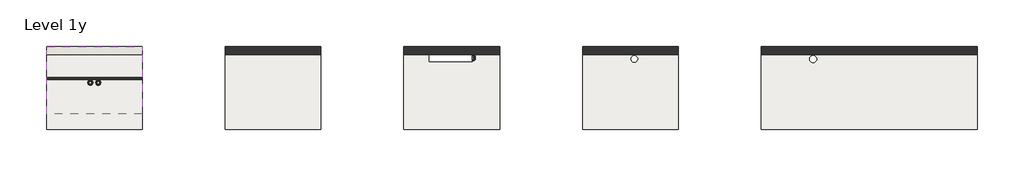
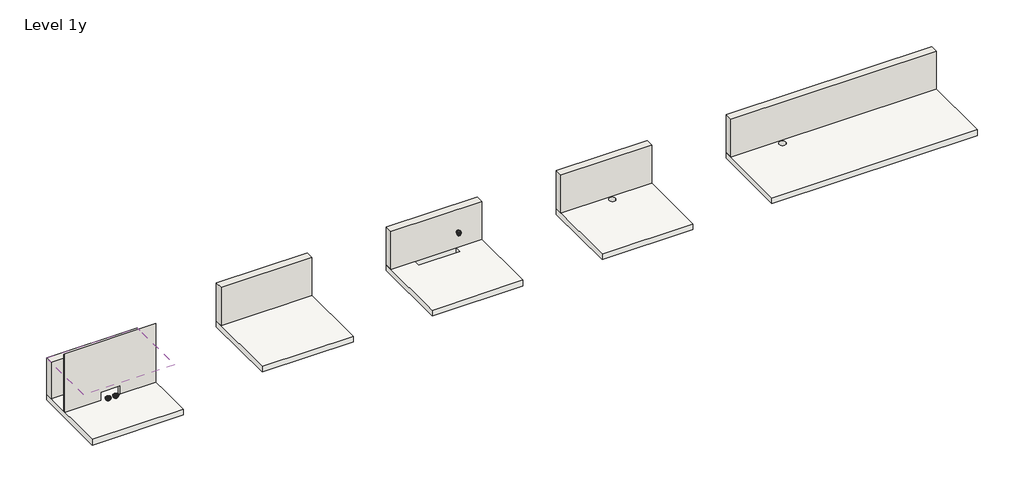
# One storey, incomplete: 6 walls, 5 slabs, 3 duct fittings, 2 duct segments, 1 roof.
"""IFC4 building model written with IfcOpenShell, lengths in millimetres."""

from ifc_helpers import new_model, si_unit, point, frame, frame_2d, origin, place, context, project, spatial, polyline, circle_curve, ellipse_curve, trimmed, segment, composite_curve, outline, extrude, faceted_brep, transform, mapped, element, save
from ifc_brep_helpers import plane_surface, revolved_surface, advanced_brep
from components import duct_fitting_80_125_7c03a684

model = new_model("IFC4")

# Units and contexts
model_context = context("Model", 3, world=origin())
ifc_project = project(units=[si_unit("LENGTHUNIT", "METRE", prefix="MILLI")], contexts=[model_context])

# Site, building, storey
site = spatial("IfcSite", under=ifc_project)
building = spatial("IfcBuilding", under=site)
storey = spatial("IfcBuildingStorey", under=building, Name="Level 1y", Elevation=2313.9019715)

# Duct fittings
placement = place(None, origin())
duct_fitting_80_125_shape = duct_fitting_80_125_7c03a684(model_context)
element("IfcDuctFitting", 1, ObjectType="Renson_Healthbox 3_Reducer_Round_Adapter 80-125 : 80-125", at=placement, inside=storey, context=model_context, shape_type="MappedRepresentation", body=[
    mapped(duct_fitting_80_125_shape, transform((-5939.50021, 3317.2435118, 3261.3063466), x_axis=(1.0, 0.0, 0.0), y_axis=(0.0, 0.0, 1.0), z_axis=(0.0, -1.0, 0.0))),
])
element("IfcDuctFitting", 2, ObjectType="Renson_Healthbox 3_Reducer_Round_Adapter 80-125 : 80-125", at=placement, inside=storey, context=model_context, shape_type="MappedRepresentation", body=[
    mapped(duct_fitting_80_125_shape, transform((-14939.8881115, 2717.2435118, 2449.9019715), x_axis=(0.0, 0.0, -1.0), y_axis=(0.0, 1.0, 0.0), z_axis=(1.0, 0.0, 0.0))),
])
element("IfcDuctFitting", 3, ObjectType="Renson_Healthbox 3_Reducer_Round_Adapter 80-125 : 80-125", at=placement, inside=storey, context=model_context, shape_type="MappedRepresentation", body=[
    mapped(duct_fitting_80_125_shape, transform((-15129.8881115, 2717.2435118, 2449.9019715), x_axis=(0.0, 0.0, -1.0), y_axis=(0.0, 1.0, 0.0), z_axis=(1.0, 0.0, 0.0))),
])

# Duct segments
element("IfcDuctSegment", 4, ObjectType="Taps", at=placement, inside=storey, context=model_context, shape_type="SweptSolid", body=[
    extrude(outline(composite_curve([segment(trimmed(circle_curve(frame_2d((2595.9019715, -10880.5454561)), 62.5), [point((2595.9019715, -10943.0454561))], [point((2533.4019715, -10880.5454561))], False, "CARTESIAN"), True, "CONTINUOUS"), segment(trimmed(circle_curve(frame_2d((2595.9019715, -10880.5454561)), 62.5), [point((2533.4019715, -10880.5454561))], [point((2595.9019715, -10818.0454561))], False, "CARTESIAN"), True, "CONTINUOUS"), segment(trimmed(circle_curve(frame_2d((2595.9019715, -10880.5454561)), 62.5), [point((2595.9019715, -10818.0454561))], [point((2658.4019715, -10880.5454561))], False, "CARTESIAN"), True, "CONTINUOUS"), segment(trimmed(circle_curve(frame_2d((2595.9019715, -10880.5454561)), 62.5), [point((2658.4019715, -10880.5454561))], [point((2595.9019715, -10943.0454561))], False, "CARTESIAN"), True, "CONTINUOUS")], self_intersect=False)), frame((0.0, 1922.8055358, 0.0), z_axis=(0.0, 1.0, 0.0), x_axis=(0.0, 0.0, 1.0)), (0.0, 0.0, 1.0), 520.0),
])
element("IfcDuctSegment", 5, ObjectType="Taps", at=placement, inside=storey, context=model_context, shape_type="SweptSolid", body=[
    extrude(outline(composite_curve([segment(trimmed(circle_curve(frame_2d((2595.9019715, -10690.5454561)), 62.5), [point((2595.9019715, -10753.0454561))], [point((2533.4019715, -10690.5454561))], False, "CARTESIAN"), True, "CONTINUOUS"), segment(trimmed(circle_curve(frame_2d((2595.9019715, -10690.5454561)), 62.5), [point((2533.4019715, -10690.5454561))], [point((2595.9019715, -10628.0454561))], False, "CARTESIAN"), True, "CONTINUOUS"), segment(trimmed(circle_curve(frame_2d((2595.9019715, -10690.5454561)), 62.5), [point((2595.9019715, -10628.0454561))], [point((2658.4019715, -10690.5454561))], False, "CARTESIAN"), True, "CONTINUOUS"), segment(trimmed(circle_curve(frame_2d((2595.9019715, -10690.5454561)), 62.5), [point((2658.4019715, -10690.5454561))], [point((2595.9019715, -10753.0454561))], False, "CARTESIAN"), True, "CONTINUOUS")], self_intersect=False)), frame((0.0, 1922.8055358, 0.0), z_axis=(0.0, 1.0, 0.0), x_axis=(0.0, 0.0, 1.0)), (0.0, 0.0, 1.0), 520.0),
])

# Roof
element("IfcRoof", 6, ObjectType="Generic - 140", at=placement, inside=storey, context=model_context, shape_type="AdvancedBrep", body=[
    advanced_brep(
    [(-16184.8881115, 1965.897915, 4965.5152584), (-16184.8881115, 3592.2435118, 3339.1696617), (-16184.8881115, 3394.253613, 3339.1696617), (-16184.8881115, 1965.897915, 4767.5253597), (-13884.8881115, 3592.2435118, 3339.1696617), (-13884.8881115, 1965.897915, 4965.5152584), (-13884.8881115, 1965.897915, 4767.5253597), (-13884.8881115, 3394.253613, 3339.1696617), (-14864.2092547, 2675.2435118, 4256.1696617), (-15024.2092547, 2675.2435118, 4256.1696617), (-15024.2092547, 2675.2435118, 4058.179763), (-14864.2092547, 2675.2435118, 4058.179763)],
    [
        (0, 1),
        (1, 2),
        (2, 3),
        (3, 0),
        (4, 5),
        (5, 6),
        (6, 7),
        (7, 4),
        (0, 5),
        (4, 1),
        (8, 9, ellipse_curve(frame((-14944.2092547, 2675.2435118, 4256.1696617), z_axis=(0.0, -0.7071067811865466, -0.7071067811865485), x_axis=(0.0, -0.7071067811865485, 0.7071067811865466)), 113.137085, 80.0)),
        (9, 8, ellipse_curve(frame((-14944.2092547, 2675.2435118, 4256.1696617), z_axis=(0.0, -0.7071067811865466, -0.7071067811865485), x_axis=(0.0, -0.7071067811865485, 0.7071067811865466)), 113.137085, 80.0)),
        (6, 3),
        (2, 7),
        (10, 11, ellipse_curve(frame((-14944.2092547, 2675.2435118, 4058.179763), z_axis=(0.0, 0.7071067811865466, 0.7071067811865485), x_axis=(0.0, -0.7071067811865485, 0.7071067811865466)), 113.137085, 80.0)),
        (11, 10, ellipse_curve(frame((-14944.2092547, 2675.2435118, 4058.179763), z_axis=(0.0, 0.7071067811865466, 0.7071067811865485), x_axis=(0.0, -0.7071067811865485, 0.7071067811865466)), 113.137085, 80.0)),
        (10, 9),
        (8, 11),
    ],
    [
        plane_surface(frame((-16184.8881115, 3592.2435118, 3339.1696617), z_axis=(-1.0, 0.0, 0.0), x_axis=(0.0, 0.7071067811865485, -0.7071067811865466))),
        plane_surface(frame((-13884.8881115, 3592.2435118, 3339.1696617), z_axis=(1.0, 0.0, 0.0), x_axis=(0.0, -0.7071067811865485, 0.7071067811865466))),
        plane_surface(frame((-16184.8881115, 1965.897915, 4965.5152584), z_axis=(0.0, 0.7071067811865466, 0.7071067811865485), x_axis=(1.0, 0.0, 0.0))),
        plane_surface(frame((-16184.8881115, 3592.2435118, 3141.179763), z_axis=(0.0, -0.7071067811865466, -0.7071067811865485), x_axis=(1.0, 0.0, 0.0))),
        plane_surface(frame((-16184.8881115, 1965.897915, 4767.5253597), z_axis=(0.0, -1.0, 0.0), x_axis=(1.0, 0.0, 0.0))),
        plane_surface(frame((-13884.8881115, 3592.2435118, 3339.1696617), z_axis=(0.0, 0.0, -1.0), x_axis=(-1.0, 0.0, 0.0))),
        revolved_surface(polyline([(-14864.2092547, 2675.2435118, 4336.169661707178), (-14864.2092547, 2675.2435118, 3978.1797629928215)]), (-14944.2092547, 2675.2435118, 3034.3696617), (0.0, 0.0, 1.0)),
    ],
    [
        (0, [[1, 2, 3, 4]]),
        (1, [[5, 6, 7, 8]]),
        (2, [[-1, 9, -5, 10], [11, 12]]),
        (3, [[13, -3, 14, -7], [15, 16]]),
        (4, [[-4, -13, -6, -9]]),
        (5, [[-2, -10, -8, -14]]),
        (6, [[17, -11, 18, -15]]),
        (6, [[-17, -16, -18, -12]]),
    ],
),
])

# Slabs
element("IfcSlab", 7, ObjectType="Generic 150mm (g)", at=placement, inside=storey, context=model_context, shape_type="SweptSolid", body=[
    extrude(outline(polyline([(-9584.8881115, 3592.2435118), (-9584.8881115, 1592.2435118), (-11884.8881115, 1592.2435118), (-11884.8881115, 3592.2435118), (-9584.8881115, 3592.2435118)])), frame((0.0, 0.0, 2670.9019715), z_axis=(0.0, 0.0, 1.0), x_axis=(1.0, 0.0, 0.0)), (0.0, 0.0, 1.0), 150.0),
])
element("IfcSlab", 8, ObjectType="Generic 150mm (g)", at=placement, inside=storey, context=model_context, shape_type="SweptSolid", body=[
    extrude(outline(polyline([(6215.1118885, 3592.2435118), (6215.1118885, 1592.2435118), (1015.1118885, 1592.2435118), (1015.1118885, 3592.2435118), (6215.1118885, 3592.2435118)]), holes=[composite_curve([segment(trimmed(circle_curve(frame_2d((2261.1118885, 3284.565679)), 85.0), [point((2176.1118885, 3284.565679))], [point((2346.1118885, 3284.565679))], True, "CARTESIAN"), True, "CONTINUOUS"), segment(trimmed(circle_curve(frame_2d((2261.1118885, 3284.565679)), 85.0), [point((2346.1118885, 3284.565679))], [point((2176.1118885, 3284.565679))], True, "CARTESIAN"), True, "CONTINUOUS")], self_intersect=False)]), frame((0.0, 0.0, 2670.8696617), z_axis=(0.0, 0.0, 1.0), x_axis=(1.0, 0.0, 0.0)), (0.0, 0.0, 1.0), 150.0),
])
element("IfcSlab", 9, ObjectType="Generic 150mm (g)", at=placement, inside=storey, context=model_context, shape_type="SweptSolid", body=[
    extrude(outline(polyline([(-984.8881115, 3592.2435118), (-984.8881115, 1592.2435118), (-3284.8881115, 1592.2435118), (-3284.8881115, 3592.2435118), (-984.8881115, 3592.2435118)]), holes=[composite_curve([segment(trimmed(circle_curve(frame_2d((-2042.8881115, 3289.565679)), 80.0), [point((-2122.8881115, 3289.565679))], [point((-1962.8881115, 3289.565679))], True, "CARTESIAN"), True, "CONTINUOUS"), segment(trimmed(circle_curve(frame_2d((-2042.8881115, 3289.565679)), 80.0), [point((-1962.8881115, 3289.565679))], [point((-2122.8881115, 3289.565679))], True, "CARTESIAN"), True, "CONTINUOUS")], self_intersect=False)]), frame((0.0, 0.0, 2670.8696617), z_axis=(0.0, 0.0, 1.0), x_axis=(1.0, 0.0, 0.0)), (0.0, 0.0, 1.0), 150.0),
])
element("IfcSlab", 10, ObjectType="Generic 150mm (g)", at=placement, inside=storey, context=model_context, shape_type="SweptSolid", body=[
    extrude(outline(polyline([(-5284.8881115, 3592.2435118), (-5284.8881115, 1592.2435118), (-7584.8881115, 1592.2435118), (-7584.8881115, 3592.2435118), (-5284.8881115, 3592.2435118)]), holes=[polyline([(-5939.8881115, 3232.2435118), (-5939.8881115, 3392.2435118), (-6974.8881115, 3392.2435118), (-6974.8881115, 3232.2435118), (-5939.8881115, 3232.2435118)])]), frame((0.0, 0.0, 2670.8696617), z_axis=(0.0, 0.0, 1.0), x_axis=(1.0, 0.0, 0.0)), (0.0, 0.0, 1.0), 150.0),
])
element("IfcSlab", 11, ObjectType="Generic 150mm (g)", at=placement, inside=storey, context=model_context, shape_type="SweptSolid", body=[
    extrude(outline(polyline([(-13884.8881115, 3592.2435118), (-13884.8881115, 1592.2435118), (-16184.8881115, 1592.2435118), (-16184.8881115, 3592.2435118), (-13884.8881115, 3592.2435118)])), frame((0.0, 0.0, 2220.9019715), z_axis=(0.0, 0.0, 1.0), x_axis=(1.0, 0.0, 0.0)), (0.0, 0.0, 1.0), 150.0),
])

# Walls
element("IfcWall", 12, ObjectType="Generic - 200mm", at=placement, inside=storey, context=model_context, shape_type="SweptSolid", body=[
    extrude(outline(polyline([(-9584.8881115, 3392.2435118), (-11884.8881115, 3392.2435118), (-11884.8881115, 3592.2435118), (-9584.8881115, 3592.2435118), (-9584.8881115, 3392.2435118)])), frame((0.0, 0.0, 2820.9019715), z_axis=(0.0, 0.0, 1.0), x_axis=(1.0, 0.0, 0.0)), (0.0, 0.0, 1.0), 1018.2676902),
])
element("IfcWall", 13, ObjectType="Generic - 200mm", at=placement, inside=storey, context=model_context, shape_type="SweptSolid", body=[
    extrude(outline(polyline([(6215.1118885, 3392.2435118), (1015.1118885, 3392.2435118), (1015.1118885, 3592.2435118), (6215.1118885, 3592.2435118), (6215.1118885, 3392.2435118)])), frame((0.0, 0.0, 2820.8696617), z_axis=(0.0, 0.0, 1.0), x_axis=(1.0, 0.0, 0.0)), (0.0, 0.0, 1.0), 1018.3),
])
element("IfcWall", 14, ObjectType="Generic - 200mm", at=placement, inside=storey, context=model_context, shape_type="SweptSolid", body=[
    extrude(outline(polyline([(-984.8881115, 3392.2435118), (-3284.8881115, 3392.2435118), (-3284.8881115, 3592.2435118), (-984.8881115, 3592.2435118), (-984.8881115, 3392.2435118)])), frame((0.0, 0.0, 2820.8696617), z_axis=(0.0, 0.0, 1.0), x_axis=(1.0, 0.0, 0.0)), (0.0, 0.0, 1.0), 1018.3),
])
element("IfcWall", 15, ObjectType="Generic - 200mm", at=placement, inside=storey, context=model_context, shape_type="SweptSolid", body=[
    extrude(outline(polyline([(-5284.8881115, 3392.2435118), (-7584.8881115, 3392.2435118), (-7584.8881115, 3592.2435118), (-5284.8881115, 3592.2435118), (-5284.8881115, 3392.2435118)])), frame((0.0, 0.0, 2820.9019715), z_axis=(0.0, 0.0, 1.0), x_axis=(1.0, 0.0, 0.0)), (0.0, 0.0, 1.0), 1018.2676902),
])
element("IfcWall", 16, ObjectType="Generic - 200mm", at=placement, inside=storey, context=model_context, shape_type="SweptSolid", body=[
    extrude(outline(polyline([(3392.2435118, 2370.9019715), (3392.2435118, 3341.179763), (3394.253613, 3339.1696617), (3592.2435118, 3339.1696617), (3592.2435118, 2370.9019715), (3392.2435118, 2370.9019715)])), frame((-16184.8881115, 0.0, 0.0), z_axis=(1.0, 0.0, 0.0), x_axis=(0.0, 1.0, 0.0)), (0.0, 0.0, 1.0), 2300.0),
])
element("IfcWall", 17, ObjectType="Generic - 50mm (g)", at=placement, inside=storey, context=model_context, shape_type="Brep", body=[
    faceted_brep([(-16184.8881115, 2792.2435118, 2370.9019715), (-15269.8881115, 2792.2435118, 2370.9019715), (-15269.8881115, 2792.2435118, 2588.9019715), (-14799.8881115, 2792.2435118, 2588.9019715), (-14799.8881115, 2792.2435118, 2370.9019715), (-13884.8881115, 2792.2435118, 2370.9019715), (-13884.8881115, 2792.2435118, 3941.179763), (-16184.8881115, 2792.2435118, 3941.179763), (-16184.8881115, 2842.2435118, 2370.9019715), (-16184.8881115, 2842.2435118, 3891.179763), (-13884.8881115, 2842.2435118, 3891.179763), (-13884.8881115, 2842.2435118, 2370.9019715), (-14799.8881115, 2842.2435118, 2370.9019715), (-14799.8881115, 2842.2435118, 2588.9019715), (-15269.8881115, 2842.2435118, 2588.9019715), (-15269.8881115, 2842.2435118, 2370.9019715)], [[[0, 1, 2, 3, 4, 5, 6, 7]], [[8, 9, 10, 11, 12, 13, 14, 15]], [[1, 0, 8, 15]], [[6, 5, 11, 10]], [[0, 7, 9, 8]], [[2, 1, 15, 14]], [[3, 2, 14, 13]], [[4, 3, 13, 12]], [[5, 4, 12, 11]], [[7, 6, 10, 9]]]),
])

save(model, "model.ifc")
